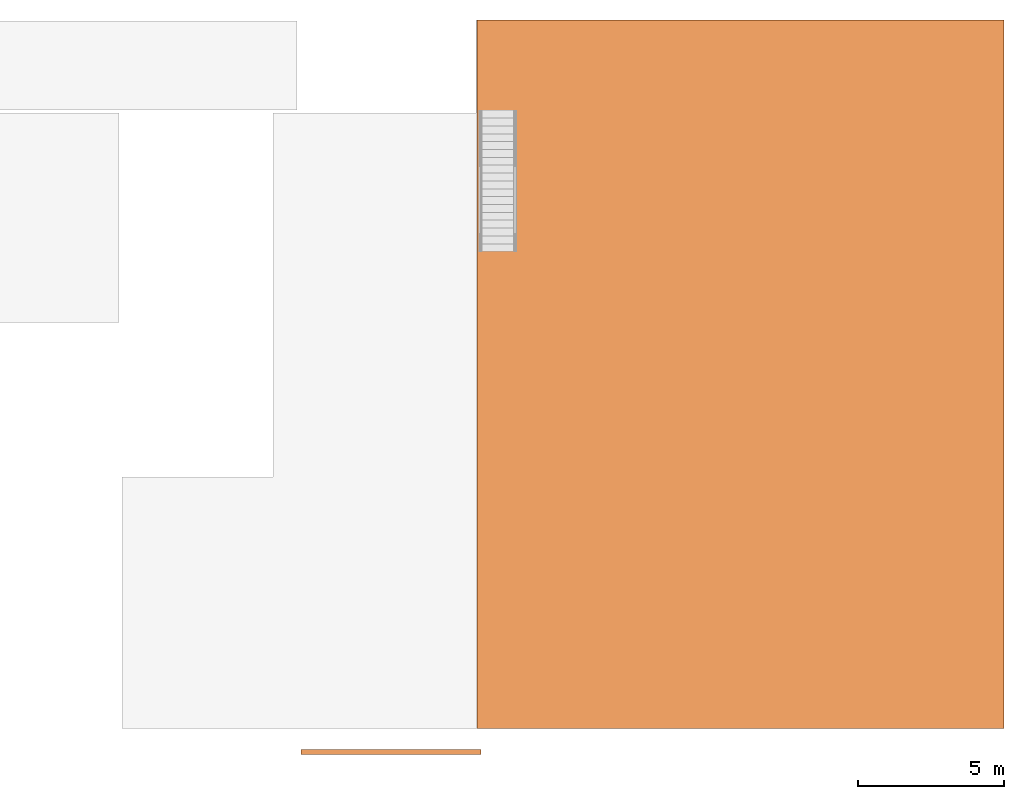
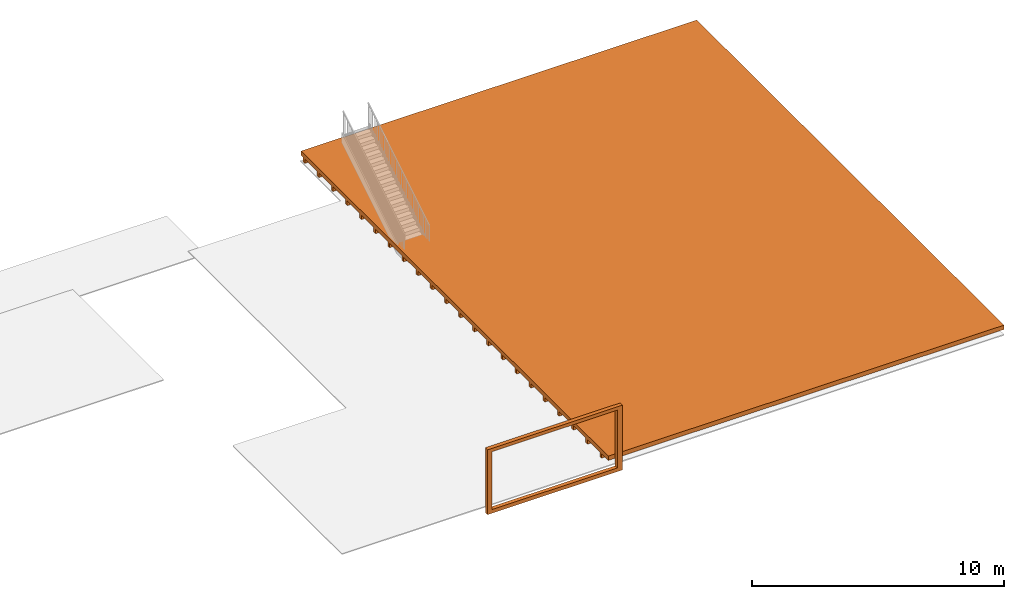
# One storey, part 4 of 4: 2 proxies.
"""IFC2X3 building model written with IfcOpenShell, lengths in millimetres."""

import ifcopenshell
import ifcopenshell.guid

model = None  # the IFC model being written
_history = None  # IfcOwnerHistory: only IFC2X3 demands one
_inside = {}  # id of a spatial element -> (the spatial element, [elements in it])
_under = {}  # id of a project, library or spatial element -> (it, [spatial elements below it])
_declared = {}  # id of a project -> (the project, [libraries it declares])
_typed = {}  # id of a type object -> (the type object, [elements of that type])
_made_of = {}  # id of a material, layer set ... -> (it, [elements and type objects made of it])


def new_model(schema):
    """Start an empty IFC model of exactly this schema.

    Asked for "IFC4X3", IfcOpenShell would pick the latest addendum, in which some entities
    have other attributes; the version numbers below select the first issue.
    IFC2X3 requires an IfcOwnerHistory on every rooted entity: one is made here for all.
    """
    global model, _history
    if schema == "IFC4X3":
        model = ifcopenshell.file(schema_version=(4, 3, 0, 0))
    else:
        model = ifcopenshell.file(schema=schema)
    _inside.clear()
    _under.clear()
    _declared.clear()
    _typed.clear()
    _made_of.clear()
    _history = None
    if model.schema == "IFC2X3":
        org = make("IfcOrganization", Name="unknown")
        user = make(
            "IfcPersonAndOrganization",
            ThePerson=make("IfcPerson", FamilyName="unknown"),
            TheOrganization=org,
        )
        app = make(
            "IfcApplication",
            ApplicationDeveloper=org,
            Version="unknown",
            ApplicationFullName="unknown",
            ApplicationIdentifier="unknown",
        )
        _history = make(
            "IfcOwnerHistory",
            OwningUser=user,
            OwningApplication=app,
            ChangeAction="ADDED",
            CreationDate=0,
        )
    return model


def make(cls, **values):
    """One entity of the class cls with the attributes given. An attribute that is None is left unset."""
    return model.create_entity(
        cls, **{name: value for name, value in values.items() if value is not None}
    )


def entity(cls, *values):
    """Any entity or typed value of the class cls, its attributes in the order of the schema. None: left unset."""
    e = model.create_entity(cls)
    for i, value in enumerate(values):
        if value is not None:
            e[i] = value
    return e


def rooted(cls, **values):
    """An entity with a GlobalId (a new one), such as an element, a storey or a relation."""
    return make(cls, GlobalId=ifcopenshell.guid.new(), OwnerHistory=_history, **values)


def si_unit(unit_type, name, prefix=None):
    """IfcSIUnit, for example si_unit("LENGTHUNIT", "METRE", prefix="MILLI")."""
    return make("IfcSIUnit", UnitType=unit_type, Prefix=prefix, Name=name)


def converted_unit(unit_type, name, factor, base, dimensions=None, offset=None):
    """IfcConversionBasedUnit, such as the inch: factor (a typed value) times the base unit."""
    return make(
        "IfcConversionBasedUnit"
        if offset is None
        else "IfcConversionBasedUnitWithOffset",
        ConversionOffset=offset,
        Dimensions=None
        if dimensions is None
        else entity("IfcDimensionalExponents", *dimensions),
        UnitType=unit_type,
        Name=name,
        ConversionFactor=make(
            "IfcMeasureWithUnit", ValueComponent=factor, UnitComponent=base
        ),
    )


def derived_unit(unit_type, elements):
    """IfcDerivedUnit: a product of units, each with its exponent."""
    return make(
        "IfcDerivedUnit",
        Elements=[
            make("IfcDerivedUnitElement", Unit=unit, Exponent=power)
            for unit, power in elements
        ],
        UnitType=unit_type,
    )


def assignment(units):
    """IfcUnitAssignment: the units of a project."""
    return None if units is None else make("IfcUnitAssignment", Units=units)


def point(xyz):
    """IfcCartesianPoint."""
    return None if xyz is None else make("IfcCartesianPoint", Coordinates=xyz)


def direction(xyz):
    """IfcDirection."""
    return None if xyz is None else make("IfcDirection", DirectionRatios=xyz)


def frame(location, z_axis=None, x_axis=None):
    """IfcAxis2Placement3D, a coordinate frame: its origin and axes. An axis left out is left unset."""
    return make(
        "IfcAxis2Placement3D",
        Location=point(location),
        Axis=direction(z_axis),
        RefDirection=direction(x_axis),
    )


def origin():
    """The frame at (0, 0, 0) with its axes left unset."""
    return frame((0.0, 0.0, 0.0))


def place(relative_to, where):
    """IfcLocalPlacement: puts the frame where relative to a parent placement (None: the world)."""
    return make(
        "IfcLocalPlacement", PlacementRelTo=relative_to, RelativePlacement=where
    )


def context(
    kind, dimensions, precision=None, world=None, true_north=None, identifier=None
):
    """IfcGeometricRepresentationContext, for example the 3D "Model" context."""
    return make(
        "IfcGeometricRepresentationContext",
        ContextIdentifier=identifier,
        ContextType=kind,
        CoordinateSpaceDimension=dimensions,
        Precision=precision,
        WorldCoordinateSystem=world,
        TrueNorth=true_north,
    )


def subcontext(parent, identifier, kind, view, scale=None):
    """IfcGeometricRepresentationSubContext, for example "Body" below "Model"."""
    return make(
        "IfcGeometricRepresentationSubContext",
        ContextIdentifier=identifier,
        ContextType=kind,
        ParentContext=parent,
        TargetScale=scale,
        TargetView=view,
    )


def project(units=None, contexts=None):
    """IfcProject with its units and contexts."""
    return rooted(
        "IfcProject",
        Name="project",
        RepresentationContexts=contexts,
        UnitsInContext=assignment(units),
    )


def spatial(cls, under=None, at=None, **own):
    """A site, building, storey or space (cls), placed at a placement, below another one or the project."""
    s = rooted(cls, ObjectPlacement=at, **own)
    if under is not None:
        _under.setdefault(under.id(), (under, []))[1].append(s)
    return s


def polyline(points):
    """IfcPolyline through the points."""
    return make("IfcPolyline", Points=[point(p) for p in points])


def outline(outer, holes=None, kind="AREA"):
    """IfcArbitraryClosedProfileDef: a profile drawn as a closed curve; with holes, ...WithVoids."""
    if holes is None:
        return make("IfcArbitraryClosedProfileDef", ProfileType=kind, OuterCurve=outer)
    return make(
        "IfcArbitraryProfileDefWithVoids",
        ProfileType=kind,
        OuterCurve=outer,
        InnerCurves=holes,
    )


def extrude(swept, where, along, depth):
    """IfcExtrudedAreaSolid: the profile swept, set in the frame where, extruded along a direction by depth."""
    return make(
        "IfcExtrudedAreaSolid",
        SweptArea=swept,
        Position=where,
        ExtrudedDirection=direction(along),
        Depth=depth,
    )


def shape(context_of_items, identifier, shape_type, items):
    """IfcShapeRepresentation: the items that make up one representation, for example the "Body"."""
    return make(
        "IfcShapeRepresentation",
        ContextOfItems=context_of_items,
        RepresentationIdentifier=identifier,
        RepresentationType=shape_type,
        Items=items,
    )


def source(mapping_origin, context_of_items, identifier, shape_type, items):
    """IfcRepresentationMap: a shape defined once, which mapped items show again and again."""
    return make(
        "IfcRepresentationMap",
        MappingOrigin=mapping_origin,
        MappedRepresentation=shape(context_of_items, identifier, shape_type, items),
    )


def transform(
    local_origin,
    x_axis=None,
    y_axis=None,
    z_axis=None,
    scale=None,
    scale2=None,
    scale3=None,
    uniform=True,
):
    """IfcCartesianTransformationOperator3D, or its non-uniform kind. x_axis, y_axis, z_axis: its Axis1, 2, 3."""
    if uniform:
        return make(
            "IfcCartesianTransformationOperator3D",
            Axis1=direction(x_axis),
            Axis2=direction(y_axis),
            LocalOrigin=point(local_origin),
            Scale=scale,
            Axis3=direction(z_axis),
        )
    return make(
        "IfcCartesianTransformationOperator3DnonUniform",
        Axis1=direction(x_axis),
        Axis2=direction(y_axis),
        LocalOrigin=point(local_origin),
        Scale=scale,
        Axis3=direction(z_axis),
        Scale2=scale2,
        Scale3=scale3,
    )


def mapped(mapping_source, mapping_target):
    """IfcMappedItem: shows the shape of a source again, moved by a transform."""
    return make(
        "IfcMappedItem", MappingSource=mapping_source, MappingTarget=mapping_target
    )


def material(Name=None, Category=None):
    """IfcMaterial."""
    return make("IfcMaterial", Name=Name, Category=Category)


def made_of(thing, what):
    """Note that an element or type object is made of a material, layer set ...; save() writes the relation."""
    if what is not None:
        _made_of.setdefault(what.id(), (what, []))[1].append(thing)
    return thing


def type_object(cls, material=None, **own):
    """A type object (cls), such as IfcWallType, which elements share."""
    return made_of(rooted(cls, **own), material)


def type_shapes(of_type, sources):
    """Give a type object the sources (RepresentationMaps) that its elements show as mapped items."""
    of_type.RepresentationMaps = sources


def element(
    cls,
    number,
    at=None,
    inside=None,
    cuts=None,
    type_object=None,
    material=None,
    context=None,
    identifier="Body",
    shape_type=None,
    held_by="IfcProductDefinitionShape",
    body=None,
    shapes=None,
    **own,
):
    """One element of the class cls, such as IfcWall. Its Tag is "e" and its number.

    at: its placement. inside: the storey or other place that contains it. cuts: it is an
    opening in that element (IfcRelVoidsElement). A single representation is given by context,
    identifier, shape_type and body (its items); several are given by shapes. held_by: the class
    of the entity that holds the representations. save() writes the other relations.
    """
    e = rooted(cls, Tag="e%d" % number, ObjectPlacement=at, **own)
    if body is not None:
        shapes = [shape(context, identifier, shape_type, body)]
    if shapes is not None:
        e.Representation = make(held_by, Representations=shapes)
    if inside is not None:
        _inside.setdefault(inside.id(), (inside, []))[1].append(e)
    if cuts is not None:
        rooted(
            "IfcRelVoidsElement", RelatingBuildingElement=cuts, RelatedOpeningElement=e
        )
    if type_object is not None:
        _typed.setdefault(type_object.id(), (type_object, []))[1].append(e)
    return made_of(e, material)


def aggregate(whole, parts):
    """IfcRelAggregates: a whole, such as a stair, and the parts it consists of."""
    return rooted("IfcRelAggregates", RelatingObject=whole, RelatedObjects=parts)


def save(model, path):
    """Write the relations noted so far, then the file.

    IfcRelAggregates (storeys below a building ...), IfcRelContainedInSpatialStructure (elements
    in a storey), IfcRelDefinesByType, IfcRelAssociatesMaterial and IfcRelDeclares: one each for
    every whole, place, type object, material and project.
    """
    for whole, parts in _under.values():
        aggregate(whole, parts)
    for where, things in _inside.values():
        rooted(
            "IfcRelContainedInSpatialStructure",
            RelatedElements=things,
            RelatingStructure=where,
        )
    for kind, things in _typed.values():
        rooted("IfcRelDefinesByType", RelatedObjects=things, RelatingType=kind)
    for what, things in _made_of.values():
        rooted("IfcRelAssociatesMaterial", RelatedObjects=things, RelatingMaterial=what)
    for by, libraries in _declared.values():
        rooted("IfcRelDeclares", RelatingContext=by, RelatedDefinitions=libraries)
    model.write(path)


model = new_model("IFC2X3")

# Units and contexts
model_context = context("Model", 3, precision=0.01, world=origin(), true_north=direction((4.05803320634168e-15, -1.0)))
body_context = subcontext(model_context, "Body", "Model", "MODEL_VIEW")
ifc_project = project(units=[si_unit("LENGTHUNIT", "METRE", prefix="MILLI"), si_unit("AREAUNIT", "SQUARE_METRE"), si_unit("VOLUMEUNIT", "CUBIC_METRE"), converted_unit("PLANEANGLEUNIT", "DEGREE", entity("IfcRatioMeasure", 0.0174532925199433), si_unit("PLANEANGLEUNIT", "RADIAN"), dimensions=[0, 0, 0, 0, 0, 0, 0]), si_unit("MASSUNIT", "GRAM", prefix="KILO"), derived_unit("MASSDENSITYUNIT", [(si_unit("MASSUNIT", "GRAM", prefix="KILO"), 1), (si_unit("LENGTHUNIT", "METRE"), -3)]), si_unit("TIMEUNIT", "SECOND"), si_unit("FREQUENCYUNIT", "HERTZ"), si_unit("THERMODYNAMICTEMPERATUREUNIT", "DEGREE_CELSIUS"), derived_unit("THERMALTRANSMITTANCEUNIT", [(si_unit("MASSUNIT", "GRAM", prefix="KILO"), 1), (si_unit("THERMODYNAMICTEMPERATUREUNIT", "KELVIN"), -1), (si_unit("TIMEUNIT", "SECOND"), -3)]), derived_unit("VOLUMETRICFLOWRATEUNIT", [(si_unit("LENGTHUNIT", "METRE"), 3), (si_unit("TIMEUNIT", "SECOND"), -1)]), si_unit("ELECTRICCURRENTUNIT", "AMPERE"), si_unit("ELECTRICVOLTAGEUNIT", "VOLT"), si_unit("POWERUNIT", "WATT"), si_unit("FORCEUNIT", "NEWTON", prefix="KILO"), si_unit("ILLUMINANCEUNIT", "LUX"), si_unit("LUMINOUSFLUXUNIT", "LUMEN"), si_unit("LUMINOUSINTENSITYUNIT", "CANDELA"), derived_unit("USERDEFINED", [(si_unit("MASSUNIT", "GRAM", prefix="KILO"), -1), (si_unit("LENGTHUNIT", "METRE"), -2), (si_unit("TIMEUNIT", "SECOND"), 3), (si_unit("LUMINOUSFLUXUNIT", "LUMEN"), 1)]), derived_unit("LINEARVELOCITYUNIT", [(si_unit("LENGTHUNIT", "METRE"), 1), (si_unit("TIMEUNIT", "SECOND"), -1)]), si_unit("PRESSUREUNIT", "PASCAL"), derived_unit("USERDEFINED", [(si_unit("LENGTHUNIT", "METRE"), -2), (si_unit("MASSUNIT", "GRAM", prefix="KILO"), 1), (si_unit("TIMEUNIT", "SECOND"), -2)])], contexts=[model_context])

# Site, building, storey
site_placement = place(None, frame((927466.849349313, 583801.882853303, 0.0), z_axis=(0.0, 0.0, 1.0), x_axis=(-1.0, 0.0, 0.0)))
site = spatial("IfcSite", under=ifc_project, at=site_placement, Name="Surface", CompositionType="ELEMENT")
building_placement = place(site_placement, origin())
building = spatial("IfcBuilding", under=site, at=building_placement, CompositionType="ELEMENT")
storey_placement = place(building_placement, frame((0.0, 0.0, 47670.0)))
storey = spatial("IfcBuildingStorey", under=building, at=storey_placement, Name="Ceiling 3500", CompositionType="ELEMENT", Elevation=47670.0)

# Proxies
ifc_material_1 = material(Name="Aluminum, Anodized Silver")
building_element_proxy_type_1 = type_object("IfcBuildingElementProxyType", Name="Generic Models 23", PredefinedType="NOTDEFINED", material=ifc_material_1)
shared_shape_1 = source(origin(), body_context, "Body", "SweptSolid", [
    extrude(outline(polyline([(-3089.28001163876, -1567.73414033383), (3089.28001163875, -1567.73414033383), (3089.28001163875, 1567.73414033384), (-3089.28001163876, 1567.73414033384), (-3089.28001163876, -1567.73414033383)]), holes=[polyline([(-2850.84437937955, -1407.73414033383), (-2850.84437937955, 1392.26585966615), (2892.43045664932, 1392.26585966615), (2892.43045664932, -1407.73414033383), (-2850.84437937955, -1407.73414033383)])]), frame((-114191.120704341, 37065.0854127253, 49562.2658596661), z_axis=(0.0, 1.0, 0.0), x_axis=(1.0, 0.0, 0.0)), (0.0, 0.0, 1.0), 177.339031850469),
])
type_shapes(building_element_proxy_type_1, [shared_shape_1])
proxy_1_placement = place(storey_placement, frame((0.0, 0.0, -47670.0)))
element("IfcBuildingElementProxy", 1, at=proxy_1_placement, inside=storey, type_object=building_element_proxy_type_1, material=ifc_material_1, Name="Generic Models 23:Generic Models 23", ObjectType="Generic Models 23", context=body_context, shape_type="MappedRepresentation", body=[
    mapped(shared_shape_1, transform((0.0, 0.0, 0.0), scale=1.0)),
])
ifc_material_2 = material(Name="fence")
building_element_proxy_type_2 = type_object("IfcBuildingElementProxyType", Name="Generic Models 68", PredefinedType="NOTDEFINED", material=ifc_material_2)
shared_shape_2 = source(origin(), body_context, "Body", "SweptSolid", [
    extrude(outline(polyline([(-12361.4756517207, -309.78710537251), (11986.216499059, -309.78710537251), (11986.216499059, -100.671397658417), (11838.528617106, -100.671397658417), (11838.528617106, 119.328602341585), (11698.528617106, 119.328602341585), (11698.528617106, -100.671397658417), (10718.528617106, -100.671397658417), (10718.528617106, 119.328602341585), (10578.528617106, 119.328602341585), (10578.528617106, -100.671397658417), (9598.52861710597, -100.671397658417), (9598.52861710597, 119.328602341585), (9458.52861710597, 119.328602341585), (9458.52861710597, -100.671397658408), (8478.52861710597, -100.671397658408), (8478.52861710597, 119.328602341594), (8338.52861710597, 119.328602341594), (8338.52861710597, -100.671397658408), (7358.52861710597, -100.671397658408), (7358.52861710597, 119.328602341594), (7218.52861710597, 119.328602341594), (7218.52861710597, -100.671397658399), (6238.52861710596, -100.671397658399), (6238.52861710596, 119.328602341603), (6098.52861710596, 119.328602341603), (6098.52861710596, -100.671397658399), (5118.52861710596, -100.671397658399), (5118.52861710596, 119.328602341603), (4978.52861710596, 119.328602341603), (4978.52861710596, -100.671397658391), (3998.52861710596, -100.671397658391), (3998.52861710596, 119.328602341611), (3858.52861710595, 119.328602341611), (3858.52861710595, -100.671397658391), (2878.52861710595, -100.671397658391), (2878.52861710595, 119.328602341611), (2738.52861710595, 119.328602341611), (2738.52861710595, -100.671397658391), (1758.52861710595, -100.671397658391), (1758.52861710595, 119.328602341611), (1618.52861710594, 119.328602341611), (1618.52861710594, -100.671397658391), (638.528617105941, -100.671397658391), (638.528617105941, 119.328602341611), (498.528617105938, 119.328602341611), (498.528617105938, -100.671397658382), (-481.471382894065, -100.671397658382), (-481.471382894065, 119.32860234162), (-621.471382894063, 119.32860234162), (-621.471382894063, -100.671397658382), (-1601.47138289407, -100.671397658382), (-1601.47138289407, 119.32860234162), (-1741.47138289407, 119.32860234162), (-1741.47138289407, -100.671397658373), (-2721.47138289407, -100.671397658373), (-2721.47138289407, 119.328602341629), (-2861.47138289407, 119.328602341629), (-2861.47138289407, -100.671397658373), (-3841.47138289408, -100.671397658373), (-3841.47138289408, 119.328602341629), (-3981.47138289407, 119.328602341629), (-3981.47138289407, -100.671397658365), (-4961.47138289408, -100.671397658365), (-4961.47138289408, 119.328602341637), (-5101.47138289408, 119.328602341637), (-5101.47138289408, -100.671397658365), (-6081.47138289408, -100.671397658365), (-6081.47138289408, 119.328602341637), (-6221.47138289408, 119.328602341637), (-6221.47138289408, -100.671397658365), (-7201.47138289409, -100.671397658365), (-7201.47138289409, 119.328602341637), (-7341.47138289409, 119.328602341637), (-7341.47138289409, -100.671397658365), (-8321.47138289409, -100.671397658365), (-8321.47138289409, 119.328602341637), (-8461.4713828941, 119.328602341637), (-8461.4713828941, -100.671397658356), (-9441.4713828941, -100.671397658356), (-9441.4713828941, 119.328602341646), (-9581.4713828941, 119.328602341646), (-9581.4713828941, -100.671397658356), (-10561.4713828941, -100.671397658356), (-10561.4713828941, 119.328602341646), (-10701.4713828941, 119.328602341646), (-10701.4713828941, -100.671397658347), (-11681.4713828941, -100.671397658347), (-11681.4713828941, 119.328602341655), (-11821.4713828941, 119.328602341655), (-11821.4713828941, -100.671397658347), (-12361.4756517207, -100.671397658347), (-12361.4756517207, -309.78710537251)])), frame((-135247.93727682, 23994.4942502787, 47860.2128946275), z_axis=(1.0, 0.0, 0.0), x_axis=(0.0, -1.0, 0.0)), (0.0, 0.0, 1.0), 18105.9721930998),
])
type_shapes(building_element_proxy_type_2, [shared_shape_2])
proxy_2_placement = place(storey_placement, frame((0.0, 0.0, -47670.0)))
element("IfcBuildingElementProxy", 2, at=proxy_2_placement, inside=storey, type_object=building_element_proxy_type_2, material=ifc_material_2, Name="Generic Models 68:Generic Models 68", ObjectType="Generic Models 68", context=body_context, shape_type="MappedRepresentation", body=[
    mapped(shared_shape_2, transform((0.0, 0.0, 0.0), scale=1.0)),
])

save(model, "model.ifc")
